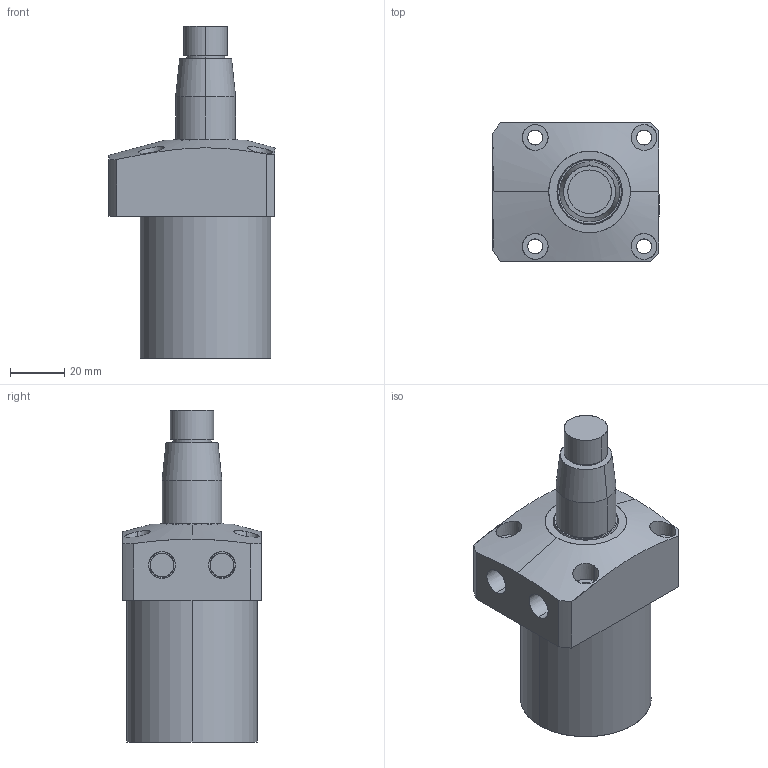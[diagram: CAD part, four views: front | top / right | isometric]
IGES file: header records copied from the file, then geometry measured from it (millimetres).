
Start section: SolidWorks IGES file using analytic representation for surfaces
Global section: file name: E:\karthik\CLASYS\Pneumatic Swing cylinders\Top mount cyl 0311\48\0311-0481.IGS; native system: SolidWorks 2010; preprocessor: SolidWorks 2010; author: karthik; date: 130916.100248; units: millimetre
Bounding box: 61 x 51 x 122 mm (x, y, z)
Surface area: 25755.9 mm2 (no closed solid volume)
Topology: 0 solids, 0 shells, 95 faces, 2512 edges, 2512 vertices
Faces by surface type: revolution 68, bspline 27
